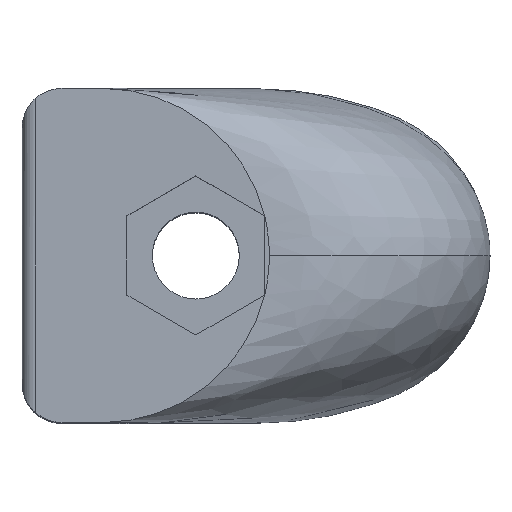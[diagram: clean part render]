
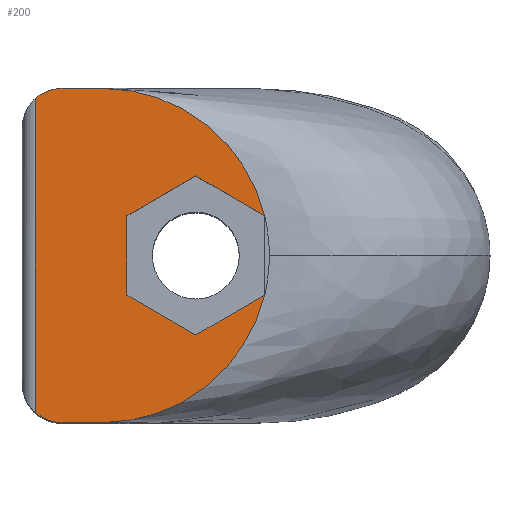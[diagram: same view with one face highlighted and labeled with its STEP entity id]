
A CAD part, top view. The second image highlights one B-rep face of the part: STEP entity #200.
In plain terms, the highlighted planar face has unit normal (0, 0, 1) as drawn and (0, 0, -1) by its records, which use the part's own axes.
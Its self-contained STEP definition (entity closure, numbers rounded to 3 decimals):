
#53 = VERTEX_POINT ( 'NONE', #67 ) ;
#57 = CARTESIAN_POINT ( 'NONE',  ( -7., 12.5, -22.65 ) ) ;
#58 = VERTEX_POINT ( 'NONE', #976 ) ;
#67 = CARTESIAN_POINT ( 'NONE',  ( -10., -12.5, -22.65 ) ) ;
#74 = CARTESIAN_POINT ( 'NONE',  ( -7., 0., -22.65 ) ) ;
#78 = EDGE_CURVE ( 'NONE', #549, #751, #584, .T. ) ;
#94 = DIRECTION ( 'NONE',  ( 0., 0., -1. ) ) ;
#95 = DIRECTION ( 'NONE',  ( 0., 0., -1. ) ) ;
#124 = ORIENTED_EDGE ( 'NONE', *, *, #1356, .F. ) ;
#134 = EDGE_CURVE ( 'NONE', #1552, #379, #242, .T. ) ;
#140 = CARTESIAN_POINT ( 'NONE',  ( 0., -5.947, -22.65 ) ) ;
#158 = CARTESIAN_POINT ( 'NONE',  ( -5.15, -2.973, -22.65 ) ) ;
#178 = ORIENTED_EDGE ( 'NONE', *, *, #78, .F. ) ;
#200 = ADVANCED_FACE ( 'NONE', ( #1251 ), #476, .T. ) ;
#214 = VECTOR ( 'NONE', #1660, 1000. ) ;
#242 = LINE ( 'NONE', #1548, #214 ) ;
#249 = EDGE_CURVE ( 'NONE', #751, #1216, #610, .T. ) ;
#277 = DIRECTION ( 'NONE',  ( 0.866, 0.5, 0. ) ) ;
#283 = LINE ( 'NONE', #404, #427 ) ;
#302 = EDGE_CURVE ( 'NONE', #53, #1552, #1631, .T. ) ;
#319 = ORIENTED_EDGE ( 'NONE', *, *, #302, .T. ) ;
#323 = ORIENTED_EDGE ( 'NONE', *, *, #609, .F. ) ;
#327 = CIRCLE ( 'NONE', #384, 12.5 ) ;
#337 = CARTESIAN_POINT ( 'NONE',  ( -13., -12.5, -22.65 ) ) ;
#349 = CARTESIAN_POINT ( 'NONE',  ( -10., 9.5, -22.65 ) ) ;
#379 = VERTEX_POINT ( 'NONE', #1638 ) ;
#384 = AXIS2_PLACEMENT_3D ( 'NONE', #74, #873, #1534 ) ;
#404 = CARTESIAN_POINT ( 'NONE',  ( -5.15, -2.973, -22.65 ) ) ;
#427 = VECTOR ( 'NONE', #791, 1000. ) ;
#470 = LINE ( 'NONE', #337, #703 ) ;
#476 = PLANE ( 'NONE',  #1466 ) ;
#549 = VERTEX_POINT ( 'NONE', #1567 ) ;
#553 = LINE ( 'NONE', #1082, #616 ) ;
#584 = CIRCLE ( 'NONE', #1551, 12.5 ) ;
#600 = CARTESIAN_POINT ( 'NONE',  ( -7., 0., -22.65 ) ) ;
#609 = EDGE_CURVE ( 'NONE', #700, #1103, #327, .T. ) ;
#610 = LINE ( 'NONE', #1281, #1197 ) ;
#616 = VECTOR ( 'NONE', #1598, 1000. ) ;
#629 = DIRECTION ( 'NONE',  ( -0.866, -0.5, 0. ) ) ;
#656 = CARTESIAN_POINT ( 'NONE',  ( 0., 5.947, -22.65 ) ) ;
#672 = CARTESIAN_POINT ( 'NONE',  ( -5.15, 2.973, -22.65 ) ) ;
#700 = VERTEX_POINT ( 'NONE', #728 ) ;
#703 = VECTOR ( 'NONE', #854, 1000. ) ;
#723 = EDGE_CURVE ( 'NONE', #379, #58, #1581, .T. ) ;
#728 = CARTESIAN_POINT ( 'NONE',  ( 5.148, 2.966, -22.65 ) ) ;
#735 = CARTESIAN_POINT ( 'NONE',  ( -5.15, 2.973, -22.65 ) ) ;
#736 = CARTESIAN_POINT ( 'NONE',  ( 5.146, -2.962, -22.65 ) ) ;
#751 = VERTEX_POINT ( 'NONE', #736 ) ;
#791 = DIRECTION ( 'NONE',  ( 0., 1., 0. ) ) ;
#854 = DIRECTION ( 'NONE',  ( 1., 0., 0. ) ) ;
#873 = DIRECTION ( 'NONE',  ( 0., 0., 1. ) ) ;
#896 = LINE ( 'NONE', #1431, #1391 ) ;
#913 = LINE ( 'NONE', #735, #939 ) ;
#939 = VECTOR ( 'NONE', #277, 1000. ) ;
#941 = EDGE_CURVE ( 'NONE', #1014, #957, #913, .T. ) ;
#950 = CARTESIAN_POINT ( 'NONE',  ( -7., 0., -22.65 ) ) ;
#957 = VERTEX_POINT ( 'NONE', #656 ) ;
#976 = CARTESIAN_POINT ( 'NONE',  ( -10., 12.5, -22.65 ) ) ;
#982 = CARTESIAN_POINT ( 'NONE',  ( 0., -5.947, -22.65 ) ) ;
#1003 = ORIENTED_EDGE ( 'NONE', *, *, #1417, .F. ) ;
#1014 = VERTEX_POINT ( 'NONE', #672 ) ;
#1022 = ORIENTED_EDGE ( 'NONE', *, *, #1217, .F. ) ;
#1024 = CARTESIAN_POINT ( 'NONE',  ( -10., -9.5, -22.65 ) ) ;
#1042 = DIRECTION ( 'NONE',  ( 0.866, -0.5, 0. ) ) ;
#1065 = LINE ( 'NONE', #140, #1469 ) ;
#1080 = CARTESIAN_POINT ( 'NONE',  ( -12., -11.736, -22.65 ) ) ;
#1082 = CARTESIAN_POINT ( 'NONE',  ( -13., 12.5, -22.65 ) ) ;
#1094 = DIRECTION ( 'NONE',  ( 0., 0., 1. ) ) ;
#1103 = VERTEX_POINT ( 'NONE', #57 ) ;
#1119 = AXIS2_PLACEMENT_3D ( 'NONE', #1024, #1671, #1664 ) ;
#1156 = EDGE_CURVE ( 'NONE', #1103, #58, #553, .T. ) ;
#1197 = VECTOR ( 'NONE', #629, 1000. ) ;
#1201 = EDGE_LOOP ( 'NONE', ( #319, #1669, #1330, #1486, #323, #1396, #1480, #124, #1003, #1211, #178, #1022 ) ) ;
#1211 = ORIENTED_EDGE ( 'NONE', *, *, #249, .F. ) ;
#1216 = VERTEX_POINT ( 'NONE', #982 ) ;
#1217 = EDGE_CURVE ( 'NONE', #53, #549, #470, .T. ) ;
#1241 = DIRECTION ( 'NONE',  ( -1., 0., 0. ) ) ;
#1251 = FACE_OUTER_BOUND ( 'NONE', #1201, .T. ) ;
#1281 = CARTESIAN_POINT ( 'NONE',  ( 5.15, -2.973, -22.65 ) ) ;
#1285 = VERTEX_POINT ( 'NONE', #158 ) ;
#1330 = ORIENTED_EDGE ( 'NONE', *, *, #723, .T. ) ;
#1356 = EDGE_CURVE ( 'NONE', #1285, #1014, #283, .T. ) ;
#1391 = VECTOR ( 'NONE', #1042, 1000. ) ;
#1396 = ORIENTED_EDGE ( 'NONE', *, *, #1438, .F. ) ;
#1417 = EDGE_CURVE ( 'NONE', #1216, #1285, #1065, .T. ) ;
#1431 = CARTESIAN_POINT ( 'NONE',  ( 0., 5.947, -22.65 ) ) ;
#1438 = EDGE_CURVE ( 'NONE', #957, #700, #896, .T. ) ;
#1454 = DIRECTION ( 'NONE',  ( -0.866, 0.5, 0. ) ) ;
#1466 = AXIS2_PLACEMENT_3D ( 'NONE', #600, #95, #1650 ) ;
#1469 = VECTOR ( 'NONE', #1454, 1000. ) ;
#1480 = ORIENTED_EDGE ( 'NONE', *, *, #941, .F. ) ;
#1486 = ORIENTED_EDGE ( 'NONE', *, *, #1156, .F. ) ;
#1490 = DIRECTION ( 'NONE',  ( -1., 0., 0. ) ) ;
#1522 = AXIS2_PLACEMENT_3D ( 'NONE', #349, #94, #1241 ) ;
#1534 = DIRECTION ( 'NONE',  ( -1., 0., 0. ) ) ;
#1548 = CARTESIAN_POINT ( 'NONE',  ( -12., 0., -22.65 ) ) ;
#1551 = AXIS2_PLACEMENT_3D ( 'NONE', #950, #1094, #1490 ) ;
#1552 = VERTEX_POINT ( 'NONE', #1080 ) ;
#1567 = CARTESIAN_POINT ( 'NONE',  ( -7., -12.5, -22.65 ) ) ;
#1581 = CIRCLE ( 'NONE', #1522, 3. ) ;
#1598 = DIRECTION ( 'NONE',  ( -1., 0., 0. ) ) ;
#1631 = CIRCLE ( 'NONE', #1119, 3. ) ;
#1638 = CARTESIAN_POINT ( 'NONE',  ( -12., 11.736, -22.65 ) ) ;
#1650 = DIRECTION ( 'NONE',  ( -1., 0., 0. ) ) ;
#1660 = DIRECTION ( 'NONE',  ( 0., 1., 0. ) ) ;
#1664 = DIRECTION ( 'NONE',  ( -1., 0., 0. ) ) ;
#1669 = ORIENTED_EDGE ( 'NONE', *, *, #134, .T. ) ;
#1671 = DIRECTION ( 'NONE',  ( 0., 0., -1. ) ) ;
